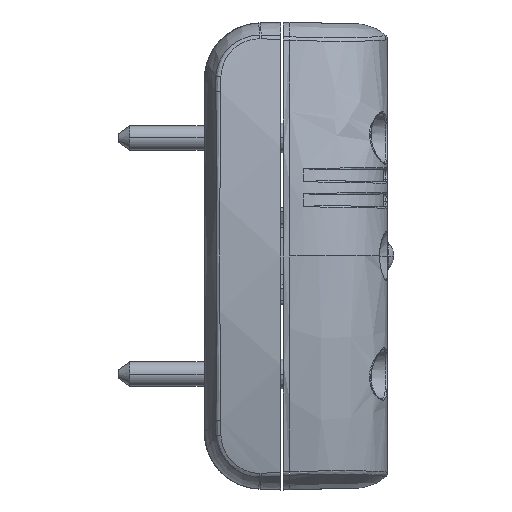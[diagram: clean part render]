
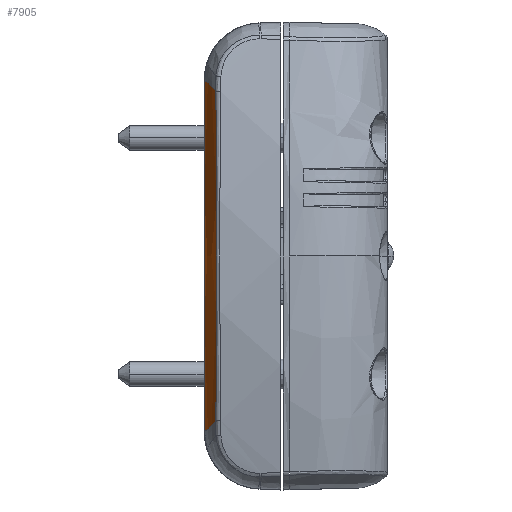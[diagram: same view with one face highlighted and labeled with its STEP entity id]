
A CAD part, left-side view. The second image highlights one B-rep face of the part: STEP entity #7905.
In plain terms, the highlighted free-form (B-spline) face has degree [3, 3] with [5, 4] control points.
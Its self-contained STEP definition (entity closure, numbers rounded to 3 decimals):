
#273 = CARTESIAN_POINT ( 'NONE',  ( -48.894, 20.868, -19.908 ) ) ;
#420 = CARTESIAN_POINT ( 'NONE',  ( -47.713, 21.575, -20.796 ) ) ;
#570 = CARTESIAN_POINT ( 'NONE',  ( -50.159, 20.868, -13.353 ) ) ;
#710 = CARTESIAN_POINT ( 'NONE',  ( -45.973, 22.5, 14.493 ) ) ;
#850 = CARTESIAN_POINT ( 'NONE',  ( -44.976, 22.447, -21.605 ) ) ;
#992 = CARTESIAN_POINT ( 'NONE',  ( -45.545, 22.457, -18.115 ) ) ;
#1319 = CARTESIAN_POINT ( 'NONE',  ( -44.976, 22.447, 21.605 ) ) ;
#2352 = EDGE_CURVE ( 'NONE', #28051, #18984, #5179, .T. ) ;
#2845 = VERTEX_POINT ( 'NONE', #26181 ) ;
#3193 = CARTESIAN_POINT ( 'NONE',  ( -46.718, 22.472, -1.847 ) ) ;
#3497 = VERTEX_POINT ( 'NONE', #27319 ) ;
#3568 = CARTESIAN_POINT ( 'NONE',  ( -49.674, 21.04, -13.48 ) ) ;
#3772 = EDGE_CURVE ( 'NONE', #3497, #18984, #8129, .T. ) ;
#4333 = EDGE_LOOP ( 'NONE', ( #24943, #12153, #12891, #7370 ) ) ;
#4691 = CARTESIAN_POINT ( 'NONE',  ( -46.246, 22.115, -21.382 ) ) ;
#5179 = B_SPLINE_CURVE_WITH_KNOTS ( 'NONE', 3,
 ( #24622, #4691, #22426, #29057 ),
 .UNSPECIFIED., .F., .F.,
 ( 4, 4 ),
 ( 0., 1. ),
 .UNSPECIFIED. ) ;
#5602 = CARTESIAN_POINT ( 'NONE',  ( -46.246, 22.115, 21.382 ) ) ;
#5643 = CARTESIAN_POINT ( 'NONE',  ( -50.352, 21.019, 6.75 ) ) ;
#5842 = CARTESIAN_POINT ( 'NONE',  ( -44.976, 22.447, 21.605 ) ) ;
#5934 = CARTESIAN_POINT ( 'NONE',  ( -48.526, 21.079, -20.17 ) ) ;
#6223 = CARTESIAN_POINT ( 'NONE',  ( -49.166, 21.057, -16.834 ) ) ;
#7195 = CARTESIAN_POINT ( 'NONE',  ( -44.767, 22.5, 21.639 ) ) ;
#7370 = ORIENTED_EDGE ( 'NONE', *, *, #8040, .F. ) ;
#7769 = CARTESIAN_POINT ( 'NONE',  ( -46.728, 22.472, -0.926 ) ) ;
#7905 = ADVANCED_FACE ( 'NONE', ( #22124 ), #23476, .F. ) ;
#8040 = EDGE_CURVE ( 'NONE', #28051, #2845, #27578, .T. ) ;
#8129 = B_SPLINE_CURVE_WITH_KNOTS ( 'NONE', 3,
 ( #26150, #14647, #17294, #10514, #28218, #5643, #14932, #21733, #28514, #8440, #10216, #3568, #6223, #21446, #5934 ),
 .UNSPECIFIED., .F., .F.,
 ( 4, 1, 1, 1, 1, 1, 1, 1, 1, 1, 1, 1, 4 ),
 ( 0., 0.084, 0.167, 0.251, 0.334, 0.417, 0.5, 0.583, 0.666, 0.749, 0.833, 0.916, 1. ),
 .UNSPECIFIED. ) ;
#8440 = CARTESIAN_POINT ( 'NONE',  ( -50.352, 21.019, -6.75 ) ) ;
#9259 = CARTESIAN_POINT ( 'NONE',  ( -48.679, 22.263, 0. ) ) ;
#9561 = CARTESIAN_POINT ( 'NONE',  ( -47.466, 22.195, 14.347 ) ) ;
#10216 = CARTESIAN_POINT ( 'NONE',  ( -50.069, 21.028, -10.118 ) ) ;
#10273 = CARTESIAN_POINT ( 'NONE',  ( -45.983, 22.463, -14.563 ) ) ;
#10514 = CARTESIAN_POINT ( 'NONE',  ( -49.674, 21.04, 13.48 ) ) ;
#11631 = CARTESIAN_POINT ( 'NONE',  ( -46.263, 22.127, 21.413 ) ) ;
#11780 = CARTESIAN_POINT ( 'NONE',  ( -51.435, 20.868, 0. ) ) ;
#12153 = ORIENTED_EDGE ( 'NONE', *, *, #3772, .F. ) ;
#12396 = CARTESIAN_POINT ( 'NONE',  ( -48.526, 21.079, 20.17 ) ) ;
#12891 = ORIENTED_EDGE ( 'NONE', *, *, #17818, .F. ) ;
#13698 = CARTESIAN_POINT ( 'NONE',  ( -45.973, 22.5, -14.493 ) ) ;
#14274 = CARTESIAN_POINT ( 'NONE',  ( -46.112, 22.467, 14.639 ) ) ;
#14606 = CARTESIAN_POINT ( 'NONE',  ( -47.475, 21.653, 20.879 ) ) ;
#14647 = CARTESIAN_POINT ( 'NONE',  ( -48.752, 21.071, 19.059 ) ) ;
#14932 = CARTESIAN_POINT ( 'NONE',  ( -50.521, 21.014, 3.376 ) ) ;
#15177 = CARTESIAN_POINT ( 'NONE',  ( -46.263, 22.127, -21.413 ) ) ;
#16133 = CARTESIAN_POINT ( 'NONE',  ( -44.976, 22.447, -21.605 ) ) ;
#16343 = CARTESIAN_POINT ( 'NONE',  ( -48.908, 21.64, 13.94 ) ) ;
#17294 = CARTESIAN_POINT ( 'NONE',  ( -49.166, 21.057, 16.834 ) ) ;
#17818 = EDGE_CURVE ( 'NONE', #2845, #3497, #22524, .T. ) ;
#18984 = VERTEX_POINT ( 'NONE', #22505 ) ;
#19274 = CARTESIAN_POINT ( 'NONE',  ( -46.728, 22.472, 7.408 ) ) ;
#19418 = CARTESIAN_POINT ( 'NONE',  ( -46.539, 22.47, -7.341 ) ) ;
#19602 = CARTESIAN_POINT ( 'NONE',  ( -44.767, 22.5, -21.639 ) ) ;
#20487 = CARTESIAN_POINT ( 'NONE',  ( -47.466, 22.195, -14.347 ) ) ;
#20630 = CARTESIAN_POINT ( 'NONE',  ( -50.114, 21.704, 0. ) ) ;
#20924 = CARTESIAN_POINT ( 'NONE',  ( -48.908, 21.64, -13.94 ) ) ;
#21355 = CARTESIAN_POINT ( 'NONE',  ( -46.652, 22.471, -4.601 ) ) ;
#21446 = CARTESIAN_POINT ( 'NONE',  ( -48.752, 21.071, -19.059 ) ) ;
#21733 = CARTESIAN_POINT ( 'NONE',  ( -50.578, 21.013, 0. ) ) ;
#22124 = FACE_OUTER_BOUND ( 'NONE', #4333, .T. ) ;
#22426 = CARTESIAN_POINT ( 'NONE',  ( -47.475, 21.653, -20.879 ) ) ;
#22505 = CARTESIAN_POINT ( 'NONE',  ( -48.526, 21.079, -20.17 ) ) ;
#22524 = B_SPLINE_CURVE_WITH_KNOTS ( 'NONE', 3,
 ( #1319, #5602, #14606, #12396 ),
 .UNSPECIFIED., .F., .F.,
 ( 4, 4 ),
 ( 0., 1. ),
 .UNSPECIFIED. ) ;
#22848 = CARTESIAN_POINT ( 'NONE',  ( -50.159, 20.868, 13.353 ) ) ;
#23476 = B_SPLINE_SURFACE_WITH_KNOTS ( 'NONE', 3, 3, ( 
 ( #19602, #15177, #420, #273 ),
 ( #13698, #20487, #20924, #570 ),
 ( #27415, #9259, #20630, #11780 ),
 ( #710, #9561, #16343, #22848 ),
 ( #7195, #11631, #25335, #25481 ) ),
 .UNSPECIFIED., .F., .F., .F.,
 ( 4, 1, 4 ),
 ( 4, 4 ),
 ( 0.194, 0.5, 0.806 ),
 ( 0., 1. ),
 .UNSPECIFIED. ) ;
#23854 = CARTESIAN_POINT ( 'NONE',  ( -46.426, 22.469, -9.157 ) ) ;
#24622 = CARTESIAN_POINT ( 'NONE',  ( -44.976, 22.447, -21.605 ) ) ;
#24943 = ORIENTED_EDGE ( 'NONE', *, *, #2352, .T. ) ;
#25335 = CARTESIAN_POINT ( 'NONE',  ( -47.713, 21.575, 20.796 ) ) ;
#25481 = CARTESIAN_POINT ( 'NONE',  ( -48.894, 20.868, 19.908 ) ) ;
#26150 = CARTESIAN_POINT ( 'NONE',  ( -48.526, 21.079, 20.17 ) ) ;
#26181 = CARTESIAN_POINT ( 'NONE',  ( -44.976, 22.447, 21.605 ) ) ;
#27319 = CARTESIAN_POINT ( 'NONE',  ( -48.526, 21.079, 20.17 ) ) ;
#27415 = CARTESIAN_POINT ( 'NONE',  ( -47.188, 22.5, 0. ) ) ;
#27578 = B_SPLINE_CURVE_WITH_KNOTS ( 'NONE', 3,
 ( #850, #992, #10273, #23854, #19418, #21355, #27990, #3193, #7769, #19274, #14274, #5842 ),
 .UNSPECIFIED., .F., .F.,
 ( 4, 2, 2, 2, 2, 4 ),
 ( 0., 0.25, 0.375, 0.438, 0.5, 1. ),
 .UNSPECIFIED. ) ;
#27990 = CARTESIAN_POINT ( 'NONE',  ( -46.68, 22.472, -3.685 ) ) ;
#28051 = VERTEX_POINT ( 'NONE', #16133 ) ;
#28218 = CARTESIAN_POINT ( 'NONE',  ( -50.069, 21.028, 10.119 ) ) ;
#28514 = CARTESIAN_POINT ( 'NONE',  ( -50.521, 21.014, -3.376 ) ) ;
#29057 = CARTESIAN_POINT ( 'NONE',  ( -48.526, 21.079, -20.17 ) ) ;
